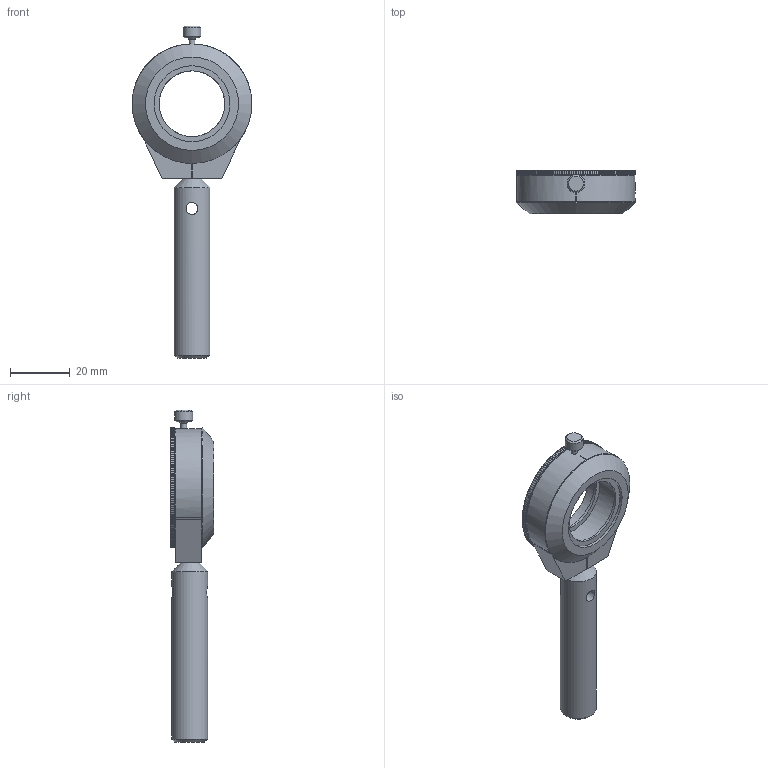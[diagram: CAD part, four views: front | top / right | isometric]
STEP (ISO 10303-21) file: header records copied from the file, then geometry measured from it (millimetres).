
FILE_DESCRIPTION(/* description */ (''),/* implementation_level */ '2;1');
FILE_NAME(/* name */ 'Y:\2_OpticalHard\02_Holders\MPHN\MPHN-25.4R\MPHN-25.4R.stp',/* time_stamp */ '2015-05-26T16:12:26+09:00',/* author */ ('e.nonaka'),/* organization */ (''),/* preprocessor_version */ 'ST-DEVELOPER v15.6',/* originating_system */ 'Autodesk Inventor 2015',/* authorisation */ '');
FILE_SCHEMA (('AUTOMOTIVE_DESIGN { 1 0 10303 214 3 1 1 }'));
Length unit declared in the file: millimetre
Products named in the file (1): MPHN254R-M02-15001-TS01
Bounding box: 40 x 14.5 x 111 mm (x, y, z)
Volume: 17895.5 mm3; surface area: 11628.2 mm2
Topology: 1 solids, 5 shells, 747 faces, 2163 edges, 1441 vertices
Faces by surface type: plane 541, cylinder 196, cone 8, torus 2
Full cylindrical faces by diameter (mm): 1.4 x1, 1.567 x4, 2 x1, 2.5 x1, 3.2 x1, 3.242 x2, 4 x1, 6 x1, 12 x1, 22 x3, 25.4 x2, 29 x1, 29.5 x3, 32 x1, 32.5 x3, 32.6 x1, 36 x1, 36.5 x2, 37 x1
Entity records: 24497 total; most frequent: CARTESIAN_POINT 4674, ORIENTED_EDGE 4202, DIRECTION 3987, EDGE_CURVE 2099, LINE 1675, VECTOR 1675, VERTEX_POINT 1423, AXIS2_PLACEMENT_3D 1156
